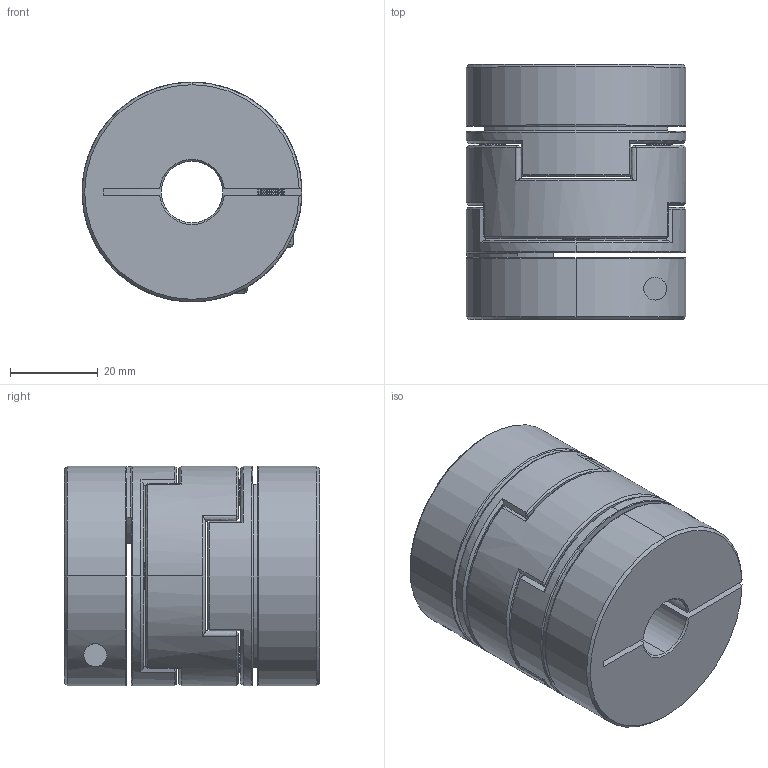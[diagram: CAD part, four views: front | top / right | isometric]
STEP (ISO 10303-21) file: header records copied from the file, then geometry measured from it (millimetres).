
FILE_DESCRIPTION (( 'STEP AP203' ), '1' );
FILE_NAME ('LZ-B-D50L58-14-22.STEP', '2021-10-29T08:07:29', ( '' ), ( '' ), 'SwSTEP 2.0', 'SolidWorks 2018', '' );
FILE_SCHEMA (( 'CONFIG_CONTROL_DESIGN' ));
Length unit declared in the file: millimetre
Products named in the file (1): LZ-B-D50L58-14-22
Bounding box: 50 x 58 x 50 mm (x, y, z)
Volume: 89997.4 mm3; surface area: 29853.7 mm2
Topology: 1 solids, 27 shells, 560 faces, 1364 edges, 810 vertices
Faces by surface type: cone 252, cylinder 160, plane 90, bspline 54, torus 4
Entity records: 17422 total; most frequent: CARTESIAN_POINT 4342, DIRECTION 2782, ORIENTED_EDGE 2720, EDGE_CURVE 1360, AXIS2_PLACEMENT_3D 1123, VERTEX_POINT 810, CIRCLE 616, EDGE_LOOP 594
